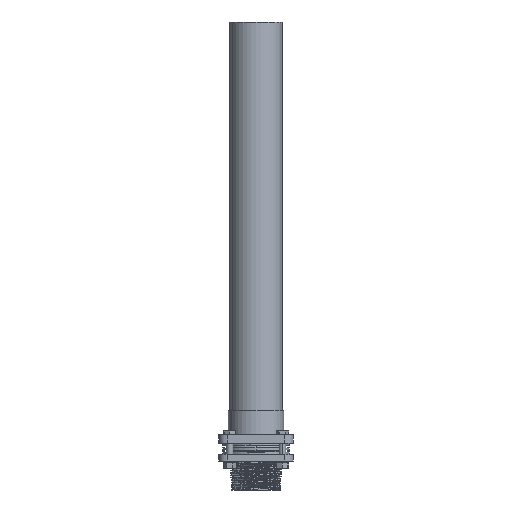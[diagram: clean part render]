
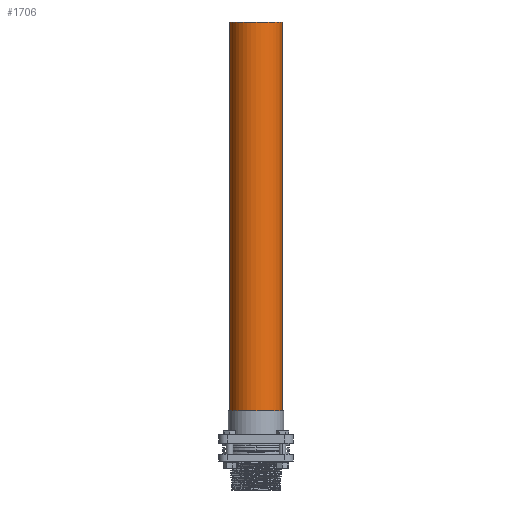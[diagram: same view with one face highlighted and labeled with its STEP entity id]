
A CAD part, front view. The second image highlights one B-rep face of the part: STEP entity #1706.
In plain terms, the highlighted cylindrical face has radius 31.5 mm (diameter 63 mm), a partial arc.
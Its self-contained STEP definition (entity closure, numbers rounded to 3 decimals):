
#1382 = AXIS2_PLACEMENT_3D ( 'NONE', #22789, #22790, #22791 ) ;
#1385 = CIRCLE ( 'NONE', #1382, 31.5 ) ;
#1405 = VECTOR ( 'NONE', #22788, 1000. ) ;
#1510 = EDGE_CURVE ( 'NONE', #22513, #22509, #22784, .T. ) ;
#1511 = EDGE_CURVE ( 'NONE', #22513, #22516, #1385, .T. ) ;
#1521 = EDGE_CURVE ( 'NONE', #22509, #22510, #1742, .T. ) ;
#1540 = EDGE_CURVE ( 'NONE', #22516, #22510, #22885, .T. ) ;
#1706 = ADVANCED_FACE ( 'NONE', ( #2615 ), #2617, .T. ) ;
#1737 = AXIS2_PLACEMENT_3D ( 'NONE', #22819, #22820, #22821 ) ;
#1742 = CIRCLE ( 'NONE', #1737, 31.5 ) ;
#1931 = ORIENTED_EDGE ( 'NONE', *, *, #1540, .F. ) ;
#1932 = ORIENTED_EDGE ( 'NONE', *, *, #1511, .F. ) ;
#1933 = ORIENTED_EDGE ( 'NONE', *, *, #1510, .T. ) ;
#1934 = ORIENTED_EDGE ( 'NONE', *, *, #1521, .T. ) ;
#2612 = DIRECTION ( 'NONE',  ( 0., 0., -1. ) ) ;
#2615 = FACE_OUTER_BOUND ( 'NONE', #20586, .T. ) ;
#2616 = CARTESIAN_POINT ( 'NONE',  ( 0., 0., 500. ) ) ;
#2617 = CYLINDRICAL_SURFACE ( 'NONE', #18664, 31.5 ) ;
#2618 = DIRECTION ( 'NONE',  ( -1., 0., 0. ) ) ;
#4218 = VECTOR ( 'NONE', #22889, 1000. ) ;
#18664 = AXIS2_PLACEMENT_3D ( 'NONE', #2616, #2612, #2618 ) ;
#20586 = EDGE_LOOP ( 'NONE', ( #1931, #1932, #1933, #1934 ) ) ;
#21372 = CARTESIAN_POINT ( 'NONE',  ( -31.5, 0., 0. ) ) ;
#21373 = CARTESIAN_POINT ( 'NONE',  ( 31.5, 0., 0. ) ) ;
#21376 = CARTESIAN_POINT ( 'NONE',  ( -31.5, 0., 500. ) ) ;
#21379 = CARTESIAN_POINT ( 'NONE',  ( 31.5, 0., 500. ) ) ;
#22509 = VERTEX_POINT ( 'NONE', #21372 ) ;
#22510 = VERTEX_POINT ( 'NONE', #21373 ) ;
#22513 = VERTEX_POINT ( 'NONE', #21376 ) ;
#22516 = VERTEX_POINT ( 'NONE', #21379 ) ;
#22776 = CARTESIAN_POINT ( 'NONE',  ( -31.5, 0., 500. ) ) ;
#22784 = LINE ( 'NONE', #22776, #1405 ) ;
#22788 = DIRECTION ( 'NONE',  ( 0., 0., -1. ) ) ;
#22789 = CARTESIAN_POINT ( 'NONE',  ( 0., 0., 500. ) ) ;
#22790 = DIRECTION ( 'NONE',  ( 0., 0., 1. ) ) ;
#22791 = DIRECTION ( 'NONE',  ( 1., 0., 0. ) ) ;
#22819 = CARTESIAN_POINT ( 'NONE',  ( 0., 0., 0. ) ) ;
#22820 = DIRECTION ( 'NONE',  ( 0., 0., 1. ) ) ;
#22821 = DIRECTION ( 'NONE',  ( 1., 0., 0. ) ) ;
#22880 = CARTESIAN_POINT ( 'NONE',  ( 31.5, 0., 500. ) ) ;
#22885 = LINE ( 'NONE', #22880, #4218 ) ;
#22889 = DIRECTION ( 'NONE',  ( 0., 0., -1. ) ) ;
